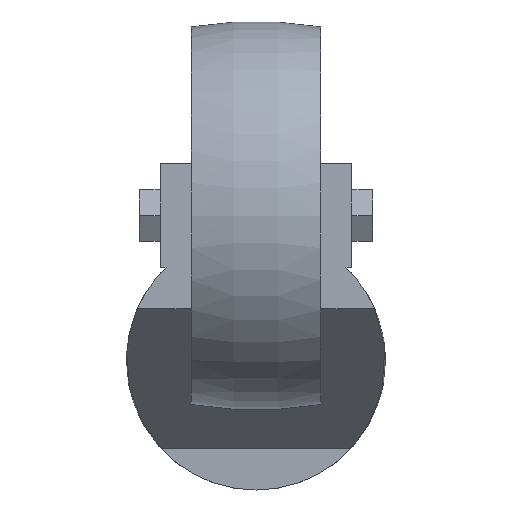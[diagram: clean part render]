
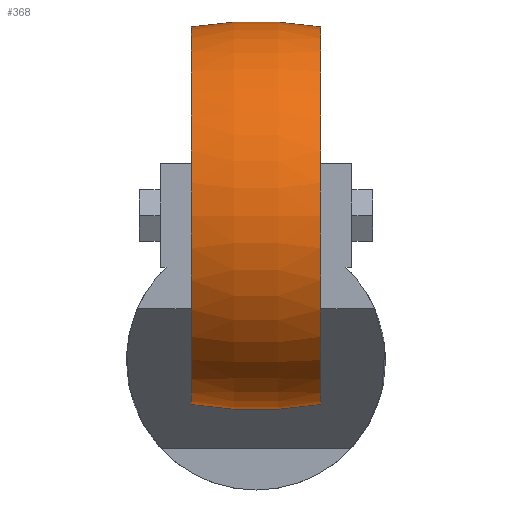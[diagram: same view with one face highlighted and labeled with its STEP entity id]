
A CAD part, front view. The second image highlights one B-rep face of the part: STEP entity #368.
In plain terms, the highlighted toroidal (fillet/blend) face has major radius 37.5 mm and minor radius 75 mm.
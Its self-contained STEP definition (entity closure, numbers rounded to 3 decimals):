
#91 = DIRECTION ( 'NONE',  ( -1., 0., 0. ) ) ;
#106 = DIRECTION ( 'NONE',  ( 0., 0., 1. ) ) ;
#125 = DIRECTION ( 'NONE',  ( 0., 0., -1. ) ) ;
#157 = CARTESIAN_POINT ( 'NONE',  ( 0., -61.5, 28. ) ) ;
#218 = VERTEX_POINT ( 'NONE', #934 ) ;
#281 = AXIS2_PLACEMENT_3D ( 'NONE', #538, #549, #1021 ) ;
#285 = CARTESIAN_POINT ( 'NONE',  ( -12.5, -61.5, 64.451 ) ) ;
#301 = AXIS2_PLACEMENT_3D ( 'NONE', #1049, #393, #106 ) ;
#303 = EDGE_CURVE ( 'NONE', #835, #218, #755, .T. ) ;
#343 = AXIS2_PLACEMENT_3D ( 'NONE', #157, #722, #366 ) ;
#366 = DIRECTION ( 'NONE',  ( 0., 0., 1. ) ) ;
#368 = ADVANCED_FACE ( 'NONE', ( #1109 ), #717, .T. ) ;
#375 = EDGE_CURVE ( 'NONE', #218, #450, #380, .T. ) ;
#380 = CIRCLE ( 'NONE', #281, 36.451 ) ;
#383 = DIRECTION ( 'NONE',  ( 0., -1., 0. ) ) ;
#393 = DIRECTION ( 'NONE',  ( 0., 1., 0. ) ) ;
#447 = DIRECTION ( 'NONE',  ( 0., 0., 1. ) ) ;
#450 = VERTEX_POINT ( 'NONE', #285 ) ;
#462 = EDGE_LOOP ( 'NONE', ( #650, #614, #973, #1048 ) ) ;
#538 = CARTESIAN_POINT ( 'NONE',  ( -12.5, -61.5, 28. ) ) ;
#549 = DIRECTION ( 'NONE',  ( -1., 0., 0. ) ) ;
#550 = VERTEX_POINT ( 'NONE', #883 ) ;
#564 = AXIS2_PLACEMENT_3D ( 'NONE', #676, #383, #125 ) ;
#614 = ORIENTED_EDGE ( 'NONE', *, *, #1161, .T. ) ;
#645 = AXIS2_PLACEMENT_3D ( 'NONE', #653, #91, #447 ) ;
#650 = ORIENTED_EDGE ( 'NONE', *, *, #303, .F. ) ;
#653 = CARTESIAN_POINT ( 'NONE',  ( 12.5, -61.5, 28. ) ) ;
#676 = CARTESIAN_POINT ( 'NONE',  ( 0., -61.5, -9.5 ) ) ;
#717 = TOROIDAL_SURFACE ( 'NONE', #343, -37.5, 75. ) ;
#722 = DIRECTION ( 'NONE',  ( -1., 0., 0. ) ) ;
#755 = CIRCLE ( 'NONE', #301, 75. ) ;
#835 = VERTEX_POINT ( 'NONE', #1058 ) ;
#840 = CIRCLE ( 'NONE', #645, 36.451 ) ;
#883 = CARTESIAN_POINT ( 'NONE',  ( 12.5, -61.5, 64.451 ) ) ;
#934 = CARTESIAN_POINT ( 'NONE',  ( -12.5, -61.5, -8.451 ) ) ;
#973 = ORIENTED_EDGE ( 'NONE', *, *, #1205, .T. ) ;
#1021 = DIRECTION ( 'NONE',  ( 0., 0., 1. ) ) ;
#1048 = ORIENTED_EDGE ( 'NONE', *, *, #375, .F. ) ;
#1049 = CARTESIAN_POINT ( 'NONE',  ( 0., -61.5, 65.5 ) ) ;
#1058 = CARTESIAN_POINT ( 'NONE',  ( 12.5, -61.5, -8.451 ) ) ;
#1074 = CIRCLE ( 'NONE', #564, 75. ) ;
#1109 = FACE_OUTER_BOUND ( 'NONE', #462, .T. ) ;
#1161 = EDGE_CURVE ( 'NONE', #835, #550, #840, .T. ) ;
#1205 = EDGE_CURVE ( 'NONE', #550, #450, #1074, .T. ) ;
